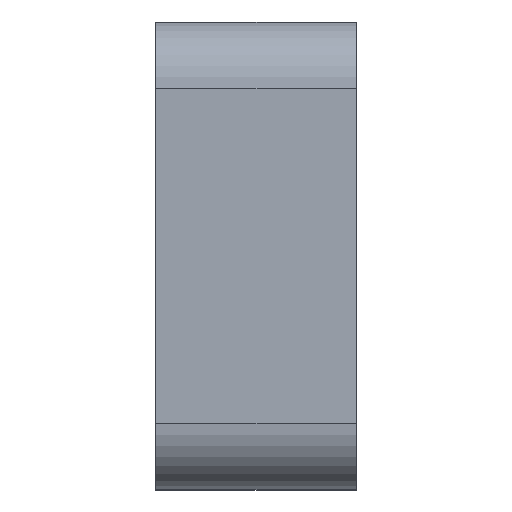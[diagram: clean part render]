
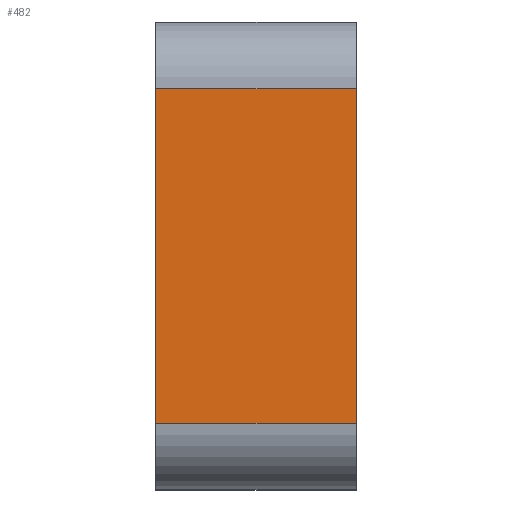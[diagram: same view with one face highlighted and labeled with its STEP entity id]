
A CAD part, left-side view. The second image highlights one B-rep face of the part: STEP entity #482.
In plain terms, the highlighted planar face has unit normal (-1, 0, 0).
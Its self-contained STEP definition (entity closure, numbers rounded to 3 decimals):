
#3 = VERTEX_POINT ( 'NONE', #414 ) ;
#11 = VERTEX_POINT ( 'NONE', #416 ) ;
#55 = DIRECTION ( 'NONE',  ( 1., 0., 0. ) ) ;
#56 = AXIS2_PLACEMENT_3D ( 'NONE', #411, #55, #332 ) ;
#81 = DIRECTION ( 'NONE',  ( 0., -1., 0. ) ) ;
#103 = DIRECTION ( 'NONE',  ( 0., 0., 1. ) ) ;
#109 = EDGE_CURVE ( 'NONE', #11, #141, #116, .T. ) ;
#116 = LINE ( 'NONE', #436, #347 ) ;
#127 = ORIENTED_EDGE ( 'NONE', *, *, #404, .T. ) ;
#141 = VERTEX_POINT ( 'NONE', #520 ) ;
#154 = DIRECTION ( 'NONE',  ( 0., 0., 1. ) ) ;
#181 = CARTESIAN_POINT ( 'NONE',  ( -14., 0., 3.5 ) ) ;
#256 = FACE_OUTER_BOUND ( 'NONE', #462, .T. ) ;
#257 = CARTESIAN_POINT ( 'NONE',  ( -14., 3., 2.5 ) ) ;
#296 = PLANE ( 'NONE',  #56 ) ;
#319 = EDGE_CURVE ( 'NONE', #321, #3, #426, .T. ) ;
#321 = VERTEX_POINT ( 'NONE', #376 ) ;
#332 = DIRECTION ( 'NONE',  ( 0., 0., -1. ) ) ;
#347 = VECTOR ( 'NONE', #81, 1000. ) ;
#354 = ORIENTED_EDGE ( 'NONE', *, *, #502, .F. ) ;
#370 = ORIENTED_EDGE ( 'NONE', *, *, #319, .T. ) ;
#376 = CARTESIAN_POINT ( 'NONE',  ( -14., 0., 2.5 ) ) ;
#387 = DIRECTION ( 'NONE',  ( 0., 1., 0. ) ) ;
#404 = EDGE_CURVE ( 'NONE', #141, #321, #496, .T. ) ;
#411 = CARTESIAN_POINT ( 'NONE',  ( -14., 3., 3.5 ) ) ;
#414 = CARTESIAN_POINT ( 'NONE',  ( -14., 3., 2.5 ) ) ;
#416 = CARTESIAN_POINT ( 'NONE',  ( -14., 3., -2.5 ) ) ;
#426 = LINE ( 'NONE', #257, #491 ) ;
#436 = CARTESIAN_POINT ( 'NONE',  ( -14., 3., -2.5 ) ) ;
#452 = VECTOR ( 'NONE', #103, 1000. ) ;
#462 = EDGE_LOOP ( 'NONE', ( #354, #506, #127, #370 ) ) ;
#472 = LINE ( 'NONE', #519, #511 ) ;
#482 = ADVANCED_FACE ( 'NONE', ( #256 ), #296, .F. ) ;
#491 = VECTOR ( 'NONE', #387, 1000. ) ;
#496 = LINE ( 'NONE', #181, #452 ) ;
#502 = EDGE_CURVE ( 'NONE', #11, #3, #472, .T. ) ;
#506 = ORIENTED_EDGE ( 'NONE', *, *, #109, .T. ) ;
#511 = VECTOR ( 'NONE', #154, 1000. ) ;
#519 = CARTESIAN_POINT ( 'NONE',  ( -14., 3., 3.5 ) ) ;
#520 = CARTESIAN_POINT ( 'NONE',  ( -14., 0., -2.5 ) ) ;
